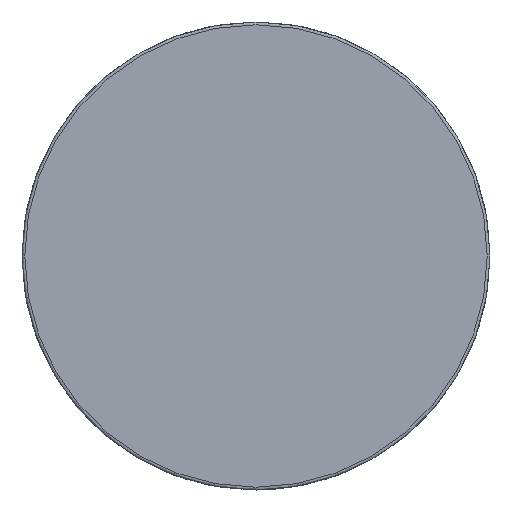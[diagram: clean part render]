
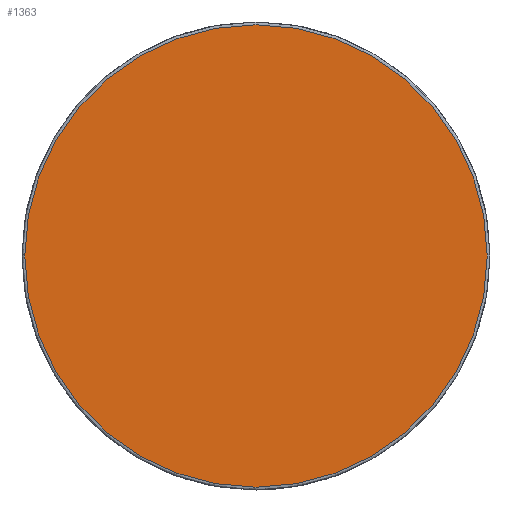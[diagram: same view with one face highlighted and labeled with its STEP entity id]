
A CAD part, left-side view. The second image highlights one B-rep face of the part: STEP entity #1363.
In plain terms, the highlighted planar face has unit normal (-1, 0, 0).
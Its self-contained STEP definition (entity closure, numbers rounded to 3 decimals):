
#914=CARTESIAN_POINT('',(-525.136,-488.109,-49.4));
#915=VERTEX_POINT('',#914);
#942=CARTESIAN_POINT('',(-525.136,-488.109,49.4));
#943=VERTEX_POINT('',#942);
#944=CARTESIAN_POINT('',(-525.136,-488.109,0.0));
#945=DIRECTION('',(-1.0,0.0,0.0));
#946=DIRECTION('',(0.0,0.0,-1.0));
#947=AXIS2_PLACEMENT_3D('',#944,#945,#946);
#948=CIRCLE('',#947,49.4);
#949=EDGE_CURVE('',#943,#915,#948,.T.);
#951=CARTESIAN_POINT('',(-525.136,-488.109,0.0));
#952=DIRECTION('',(-1.0,0.0,0.0));
#953=DIRECTION('',(0.0,0.0,-1.0));
#954=AXIS2_PLACEMENT_3D('',#951,#952,#953);
#955=CIRCLE('',#954,49.4);
#956=EDGE_CURVE('',#915,#943,#955,.T.);
#1354=CARTESIAN_POINT('',(-525.136,-438.708,-49.401));
#1355=DIRECTION('',(-1.0,0.0,0.0));
#1356=DIRECTION('',(0.0,-1.0,0.0));
#1357=AXIS2_PLACEMENT_3D('',#1354,#1355,#1356);
#1358=PLANE('',#1357);
#1359=ORIENTED_EDGE('',*,*,#956,.T.);
#1360=ORIENTED_EDGE('',*,*,#949,.T.);
#1361=EDGE_LOOP('',(#1359,#1360));
#1362=FACE_OUTER_BOUND('',#1361,.T.);
#1363=ADVANCED_FACE('',(#1362),#1358,.T.);
